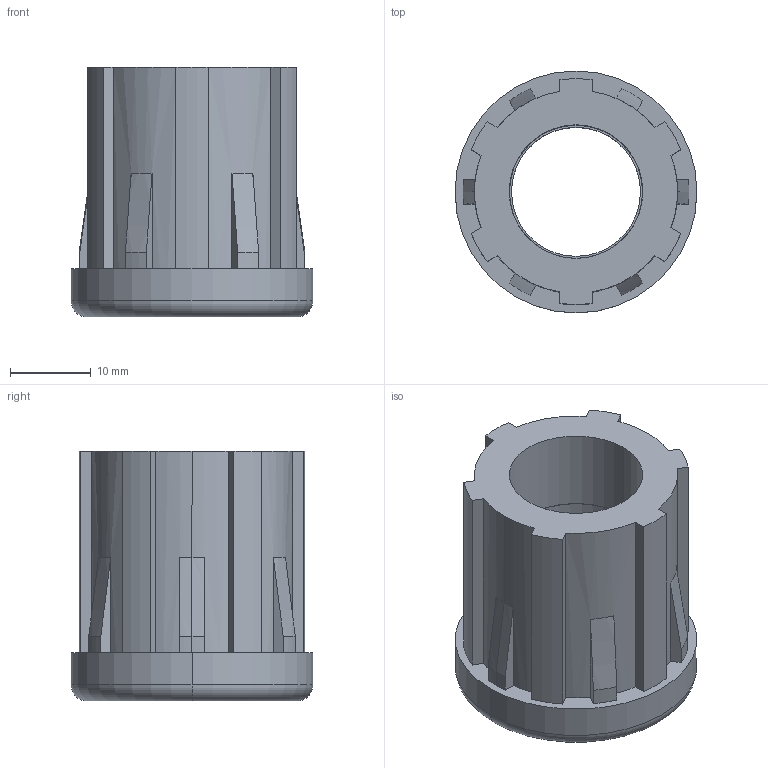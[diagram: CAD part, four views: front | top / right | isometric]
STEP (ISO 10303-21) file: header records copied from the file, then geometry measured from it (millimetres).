
FILE_DESCRIPTION(('STEP AP214'),'1');
FILE_NAME('42006430116.stp','2016-01-21T14:01:13',(' '),(' '),'Spatial InterOp 3D',' ',' ');
FILE_SCHEMA(('automotive_design'));
Length unit declared in the file: millimetre
Products named in the file (4): 64_80857; Component1; 42006430116; Disegno1
Assembly tree (3 placements, depth 3):
  42006430116
    64_80857
      Component1
    Disegno1
Bounding box: 30 x 30 x 31 mm (x, y, z)
Volume: 11077.7 mm3; surface area: 7484.7 mm2
Topology: 2 solids, 2 shells, 93 faces, 234 edges, 148 vertices
Faces by surface type: cylinder 38, plane 31, cone 16, torus 8
Entity records: 3679 total; most frequent: DIRECTION 550, CARTESIAN_POINT 480, ORIENTED_EDGE 468, EDGE_CURVE 234, AXIS2_PLACEMENT_3D 218, VERTEX_POINT 148, CIRCLE 120, LINE 114
